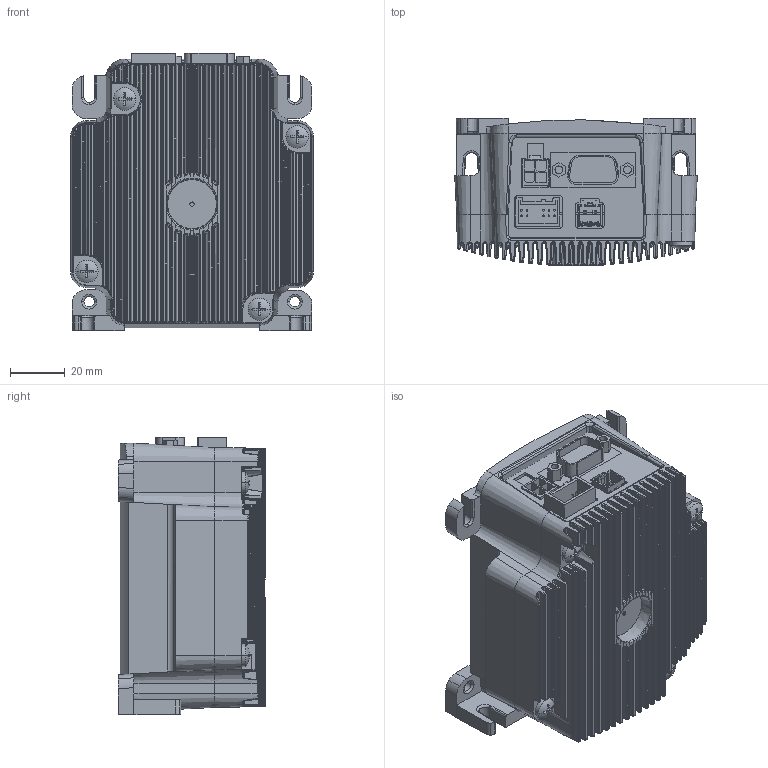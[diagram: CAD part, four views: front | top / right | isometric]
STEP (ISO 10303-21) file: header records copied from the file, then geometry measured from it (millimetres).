
FILE_DESCRIPTION( ( '' ), '1' );
FILE_NAME( 'C:\KeyCreator6.0\STEP\mforce34webmodel.stp', ' ', ( '' ), ( '' ), 'ACIS Interop R16', 'Kubotek KeyCreator V6.0.0 (0120)', ' ' );
FILE_SCHEMA( ( 'CONFIG_CONTROL_DESIGN' ) );
Length unit declared in the file: inch
Products named in the file (373): 1; 2; 3; 4; 5; 6; 7; 8; 9; 10; 11; 12; 13; 14; 15; 16; 17; 18; 19; 20; 21; 22; 23; 24; 25; 26; 27; 28; 29; 30; 31; 32; 33; 34; 35; 36; 37; 38; 39; 40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
Bounding box: 88.45 x 53.75 x 101.18 mm (x, y, z)
Volume: 331940.3 mm3; surface area: 82228.5 mm2
Topology: 18 solids, 214 shells, 2256 faces, 5994 edges, 3995 vertices
Faces by surface type: plane 783, cylinder 757, bspline 432, sphere 133, cone 96, torus 55
Entity records: 127679 total; most frequent: CARTESIAN_POINT 57357, ORIENTED_EDGE 10956, DIRECTION 10394, EDGE_CURVE 6144, VERTEX_POINT 4299, AXIS2_PLACEMENT_3D 3593, LINE 3208, VECTOR 3208
